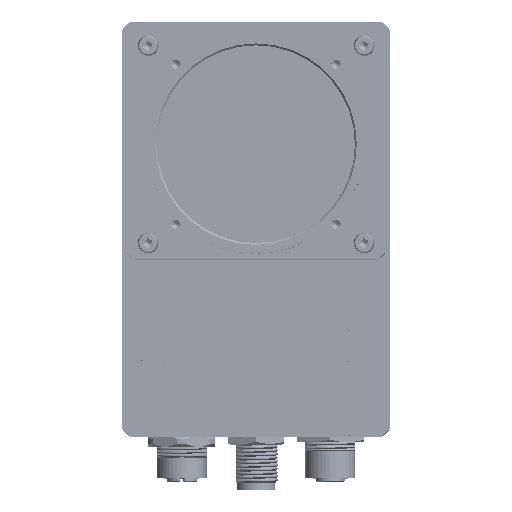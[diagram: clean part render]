
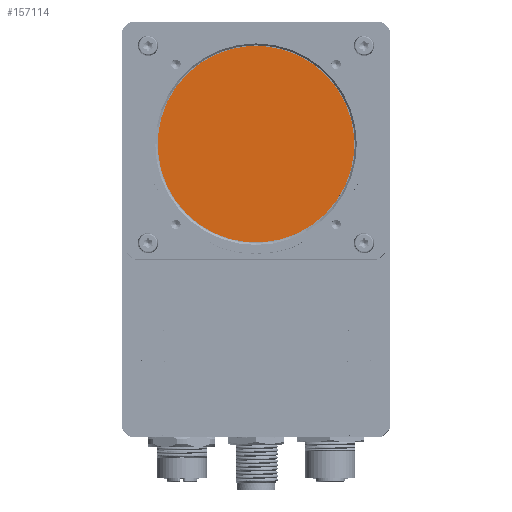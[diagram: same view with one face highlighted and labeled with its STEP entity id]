
A CAD part, top view. The second image highlights one B-rep face of the part: STEP entity #157114.
In plain terms, the highlighted planar face has unit normal (0, 0, 1).
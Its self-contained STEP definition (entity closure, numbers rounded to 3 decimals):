
#22770 = DIRECTION ( 'NONE',  ( 0., 0., 1. ) ) ;
#27301 = AXIS2_PLACEMENT_3D ( 'NONE', #37700, #22770, #92947 ) ;
#37700 = CARTESIAN_POINT ( 'NONE',  ( 0., 27., 57.8 ) ) ;
#54772 = EDGE_LOOP ( 'NONE', ( #156246 ) ) ;
#57487 = CARTESIAN_POINT ( 'NONE',  ( 26.384, 24.52, 57.8 ) ) ;
#60288 = FACE_OUTER_BOUND ( 'NONE', #54772, .T. ) ;
#73286 = VERTEX_POINT ( 'NONE', #57487 ) ;
#91374 = CARTESIAN_POINT ( 'NONE',  ( 0., 27., 57.8 ) ) ;
#92947 = DIRECTION ( 'NONE',  ( 0.996, -0.094, 0. ) ) ;
#105394 = DIRECTION ( 'NONE',  ( 0., 0., 1. ) ) ;
#117275 = PLANE ( 'NONE',  #27301 ) ;
#124391 = AXIS2_PLACEMENT_3D ( 'NONE', #91374, #105394, #130635 ) ;
#130635 = DIRECTION ( 'NONE',  ( 0.996, -0.094, 0. ) ) ;
#151266 = CIRCLE ( 'NONE', #124391, 26.5 ) ;
#156246 = ORIENTED_EDGE ( 'NONE', *, *, #180204, .T. ) ;
#157114 = ADVANCED_FACE ( 'NONE', ( #60288 ), #117275, .T. ) ;
#180204 = EDGE_CURVE ( 'NONE', #73286, #73286, #151266, .T. ) ;
